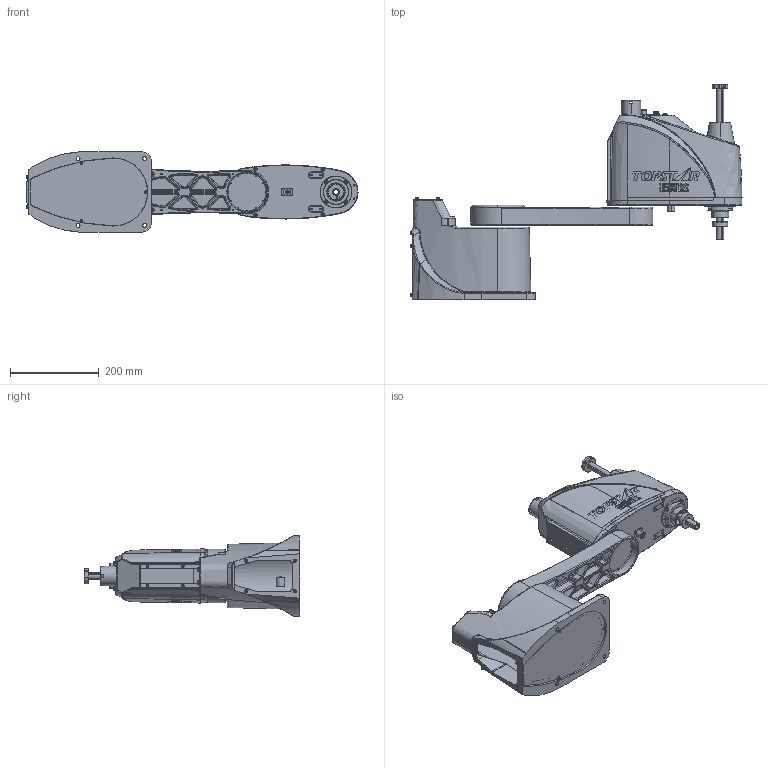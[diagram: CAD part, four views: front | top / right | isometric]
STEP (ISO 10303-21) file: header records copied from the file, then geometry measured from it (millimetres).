
FILE_DESCRIPTION(('STEP AP214'),'1');
FILE_NAME('TR002-HP500.stp','2021-08-03T08:05:46',(' '),(' '),'Spatial InterOp 3D',' ',' ');
FILE_SCHEMA(('AUTOMOTIVE_DESIGN { 1 0 10303 214 1 1 1 1 }'));
Length unit declared in the file: millimetre
Products named in the file (36): BASE; TSR600-1-1001; GB70-85 M4__20; GB70-85 M3__8; GB70-85 M4__8; ______ ____ 3.6V-ER26500; TSR600-1-1008; TSR600-1-1002; TR002-HP500; ______________-1; TSR400-3-002-0; ____ ______ ZLQ19A-P11F EG________24V ST______; d-sub 15______; ________; GB__T 6170 M3 A2-70 ____; _______^_M32______A_O; ________ BPM4; ________APMT6____A_O; J2; TSR500-3-001-0; TSR600-1-3019; GB70-85 M4__12; TSR400-1-004-0; GB70-85 M5__12; ________ 4__1; TR002-HP400 ____; TR002-HP400 ____3; TSR400-3-015-0_1; J1; ________________; GB70-85 M4__16; __________ A6061 16__35__10 ______ ________; J3; BNS1616AE+350LC5_________; J4
Assembly tree (65 placements, depth 4):
  TR002-HP500
    BASE
      TSR600-1-1001
      GB70-85 M4__20  x2
      GB70-85 M3__8  x7
      GB70-85 M4__8  x4
      ______ ____ 3.6V-ER26500
      TSR600-1-1008
      TSR600-1-1002
    J2
      ______________-1
        TSR400-3-002-0
        ____ ______ ZLQ19A-P11F EG________24V ST______
        d-sub 15______
        ________  x2
        GB__T 6170 M3 A2-70 ____  x2
        _______^_M32______A_O
        ________ BPM4
        ________APMT6____A_O
        ________APMT6____A_O
      TSR500-3-001-0
      TSR600-1-3019
      GB70-85 M4__8  x7
      GB70-85 M4__12  x8
      TSR400-1-004-0
      GB70-85 M5__12
      ________ 4__1  x3
      TR002-HP400 ____
      TR002-HP400 ____3
      TSR400-3-015-0_1
    J1
    J3
      ________________
        GB70-85 M4__16
        __________ A6061 16__35__10 ______ ________
      BNS1616AE+350LC5_________
    J4
      GB70-85 M4__16
      __________ A6061 16__35__10 ______ ________
Bounding box: 746.47 x 485 x 180.64 mm (x, y, z)
Volume: 2950990.9 mm3; surface area: 1060332.4 mm2
Topology: 59 solids, 661 shells, 3535 faces, 10989 edges, 8299 vertices
Faces by surface type: plane 1166, cylinder 1080, bspline 867, cone 332, torus 73, sphere 17
Entity records: 253023 total; most frequent: CARTESIAN_POINT 148916, ORIENTED_EDGE 15362, DIRECTION 11988, EDGE_CURVE 9550, VERTEX_POINT 7416, AXIS2_PLACEMENT_3D 4515, B_SPLINE_CURVE_WITH_KNOTS 4049, STYLED_ITEM 3586
